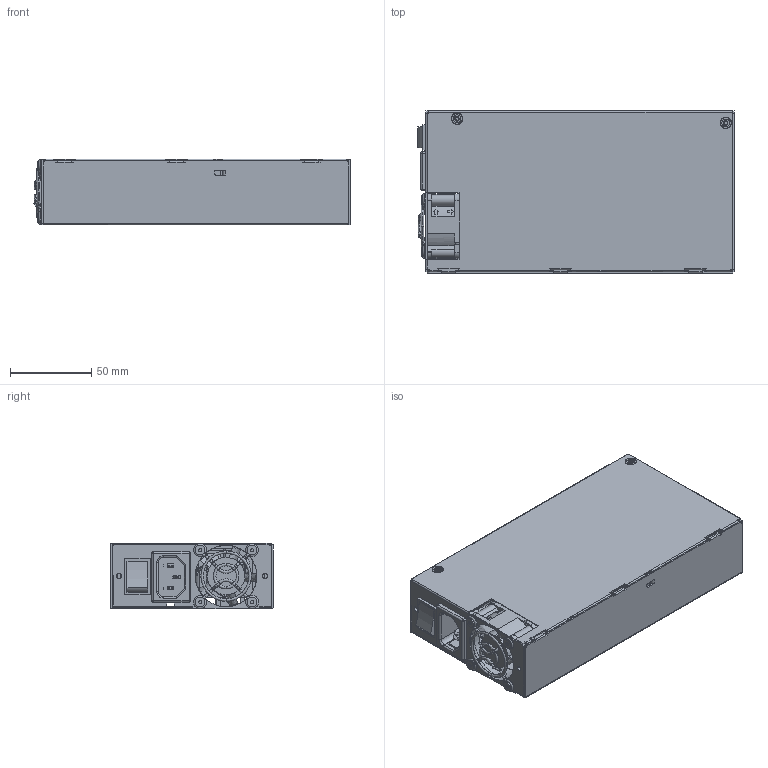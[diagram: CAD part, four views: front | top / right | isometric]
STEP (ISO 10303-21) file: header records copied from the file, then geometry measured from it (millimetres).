
FILE_DESCRIPTION((''),'2;1');
FILE_NAME('ASM0001_ASM','2017-12-12T',('JASON.CHIEN'),(''),'PRO/ENGINEER BY PARAMETRIC TECHNOLOGY CORPORATION, 2010280','PRO/ENGINEER BY PARAMETRIC TECHNOLOGY CORPORATION, 2010280','');
FILE_SCHEMA(('CONFIG_CONTROL_DESIGN','SHAPE_APPEARANCE_LAYERS_GROUPS'));
Products named in the file (57): CASETOP; CASEBASE; INSULATOR; PCB; 20160325_2_; C101_C106; C112; C113_C114; T1; T2; L3; C3; C5_C6; L1; FL1; FL2; FL3; CX1; F1-1; F1-2; Q3; Q4; C29; C109; CY1_CY2; CY3_CY4; CY5; R73; NTC1; NTC32; HS1; HS2; HS3; HS4; HS5; BD1; FB9_FB10; FB1_FB2_FB3; Q101_Q102; C102_C103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
Assembly tree (63 placements, depth 2):
  ASM0001_ASM
    CASETOP
    CASEBASE
    INSULATOR
    PCB
    20160325_2_
    C101_C106
    C112
    C113_C114
    T1
    T2
    L3
    C3
    C5_C6
    L1
    FL1
    FL2
    FL3
    CX1
    F1-1
    F1-2
    Q3
    Q4
    C29
    C109
    CY1_CY2
    CY3_CY4
    CY5
    R73
    NTC1
    NTC32
    HS1
    HS2
    HS3
    HS4
    HS5
    BD1
    FB9_FB10
    FB1_FB2_FB3
    Q101_Q102
    C102_C103
    FB31
    D102
    CN101
    TDC-451
    TDC-451-1
    TDC-398
    TDC-398-1
    PN3020110735
    PN3620404F11
    SWITCH
    34246000XX
    3105318101-L5  x3
    TOP_INSULATOR
    STANDOFF  x2
    3105329000-L6  x4
    3105325100-L6  x2
Bounding box: 194.9 x 100 x 40.5 mm (x, y, z)
Volume: 254424.6 mm3; surface area: 306691.6 mm2
Topology: 99 solids, 100 shells, 2661 faces, 6761 edges, 4316 vertices
Faces by surface type: plane 1620, cylinder 698, torus 117, bspline 89, extrusion 70, cone 63, sphere 4
Entity records: 88761 total; most frequent: CARTESIAN_POINT 25016, ORIENTED_EDGE 11178, DIRECTION 10900, EDGE_CURVE 5589, VECTOR 3986, LINE 3916, VERTEX_POINT 3552, AXIS2_PLACEMENT_3D 3457
